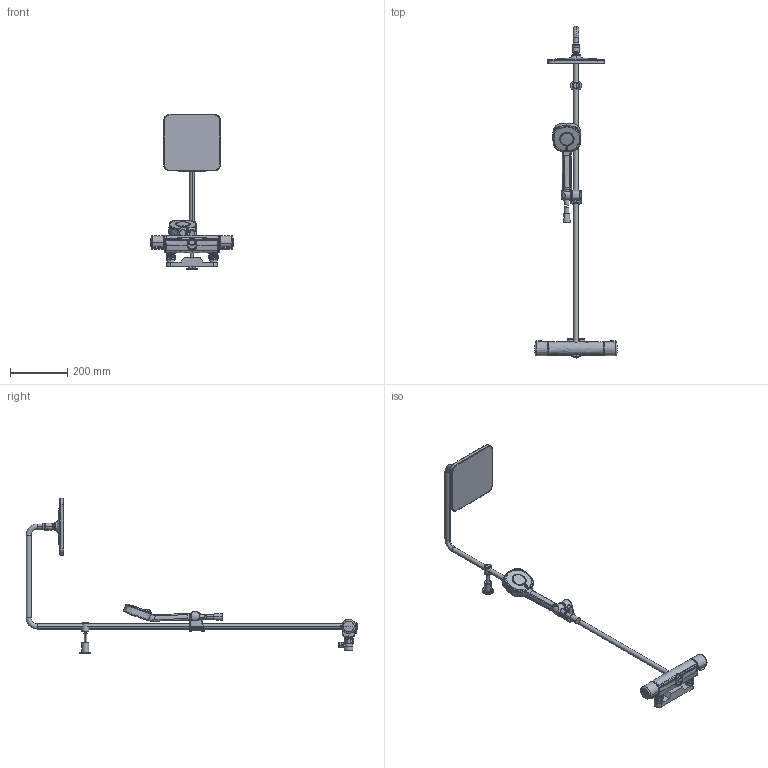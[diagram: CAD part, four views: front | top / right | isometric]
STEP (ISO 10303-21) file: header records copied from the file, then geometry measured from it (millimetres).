
FILE_DESCRIPTION (( 'STEP AP203' ), '1' );
FILE_NAME ('7415(2021).STEP', '2020-12-15T14:30:03', ( '' ), ( '' ), 'SwSTEP 2.0', 'SolidWorks 2016', '' );
FILE_SCHEMA (( 'CONFIG_CONTROL_DESIGN' ));
Length unit declared in the file: millimetre
Products named in the file (1): 7415(2021)
Bounding box: 289.92 x 1162.4 x 545.47 mm (x, y, z)
Volume: 2049312.8 mm3; surface area: 433952.5 mm2
Topology: 29 solids, 29 shells, 986 faces, 2250 edges, 1344 vertices
Faces by surface type: bspline 412, cylinder 211, plane 170, cone 80, torus 77, sphere 36
Entity records: 85468 total; most frequent: CARTESIAN_POINT 66719, ORIENTED_EDGE 4468, DIRECTION 3011, EDGE_CURVE 2234, VERTEX_POINT 1342, AXIS2_PLACEMENT_3D 1303, EDGE_LOOP 1024, ADVANCED_FACE 986
